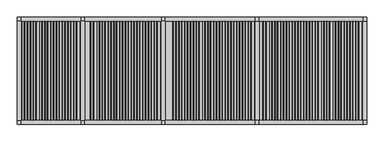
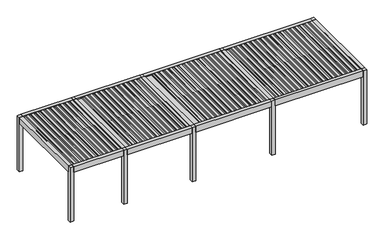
"""IFC4 building model written with IfcOpenShell, lengths in millimetres: proxy geometry, Renson_Camargue_Freestanding_Patio covers : Renson_Camargue_Freestanding_Patio covers."""

from ifc_helpers import new_model, si_unit, point, frame, frame_2d, origin, origin_with_axes, place, context, project, spatial, polyline, circle_curve, trimmed, segment, composite_curve, outline, extrude, source, transform, mapped, element, save


def generic_models_eab410b6(model_context):
    return source(origin(), model_context, "Body", "SweptSolid", [
        extrude(outline(composite_curve([segment(polyline([(2458.35, 11323.7338351), (2486.01198, 11326.1539448), (2487.3970364, 11354.9891952), (2506.8911096, 11351.5518641), (2501.6075693, 11241.5547493)]), True, "CONTINUOUS"), segment(trimmed(circle_curve(frame_2d((2486.6248435, 11242.2744212)), 15.0), [point((2501.6075693, 11241.5547493))], [point((2489.2295662, 11227.5023049))], False, "CARTESIAN"), True, "CONTINUOUS"), segment(polyline([(2489.2295662, 11227.5023049), (2470.0, 11224.1116136), (2470.0, 11136.3758376), (2487.0788237, 11133.3643801), (2486.3450182, 11118.0874097), (2458.35, 11115.6381629), (2458.35, 11323.7338351)]), True, "CONTINUOUS")], self_intersect=False)), frame((0.0, -1850.0, 0.0), z_axis=(0.0, 1.0, 0.0), x_axis=(0.0, 0.0, 1.0)), (0.0, 0.0, 1.0), 3700.0),
        extrude(outline(composite_curve([segment(polyline([(2458.35, 11108.7230303), (2486.01198, 11111.14314), (2487.3970364, 11139.9783904), (2506.8911096, 11136.5410594), (2501.6075693, 11026.5439445)]), True, "CONTINUOUS"), segment(trimmed(circle_curve(frame_2d((2486.6248435, 11027.2636164)), 15.0), [point((2501.6075693, 11026.5439445))], [point((2489.2295662, 11012.4915001))], False, "CARTESIAN"), True, "CONTINUOUS"), segment(polyline([(2489.2295662, 11012.4915001), (2470.0, 11009.1008088), (2470.0, 10921.3650328), (2487.0788237, 10918.3535754), (2486.3450182, 10903.0766049), (2458.35, 10900.6273582), (2458.35, 11108.7230303)]), True, "CONTINUOUS")], self_intersect=False)), frame((0.0, -1850.0, 0.0), z_axis=(0.0, 1.0, 0.0), x_axis=(0.0, 0.0, 1.0)), (0.0, 0.0, 1.0), 3700.0),
        extrude(outline(composite_curve([segment(polyline([(2458.35, 10893.7122255), (2486.01198, 10896.1323352), (2487.3970364, 10924.9675857), (2506.8911096, 10921.5302546), (2501.6075693, 10811.5331397)]), True, "CONTINUOUS"), segment(trimmed(circle_curve(frame_2d((2486.6248435, 10812.2528117)), 15.0), [point((2501.6075693, 10811.5331397))], [point((2489.2295662, 10797.4806954))], False, "CARTESIAN"), True, "CONTINUOUS"), segment(polyline([(2489.2295662, 10797.4806954), (2470.0, 10794.090004), (2470.0, 10706.354228), (2487.0788237, 10703.3427706), (2486.3450182, 10688.0658001), (2458.35, 10685.6165534), (2458.35, 10893.7122255)]), True, "CONTINUOUS")], self_intersect=False)), frame((0.0, -1850.0, 0.0), z_axis=(0.0, 1.0, 0.0), x_axis=(0.0, 0.0, 1.0)), (0.0, 0.0, 1.0), 3700.0),
        extrude(outline(composite_curve([segment(polyline([(2458.35, 10678.7014208), (2486.01198, 10681.1215304), (2487.3970364, 10709.9567809), (2506.8911096, 10706.5194498), (2501.6075693, 10596.5223349)]), True, "CONTINUOUS"), segment(trimmed(circle_curve(frame_2d((2486.6248435, 10597.2420069)), 15.0), [point((2501.6075693, 10596.5223349))], [point((2489.2295662, 10582.4698906))], False, "CARTESIAN"), True, "CONTINUOUS"), segment(polyline([(2489.2295662, 10582.4698906), (2470.0, 10579.0791992), (2470.0, 10491.3434232), (2487.0788237, 10488.3319658), (2486.3450182, 10473.0549953), (2458.35, 10470.6057486), (2458.35, 10678.7014208)]), True, "CONTINUOUS")], self_intersect=False)), frame((0.0, -1850.0, 0.0), z_axis=(0.0, 1.0, 0.0), x_axis=(0.0, 0.0, 1.0)), (0.0, 0.0, 1.0), 3700.0),
        extrude(outline(composite_curve([segment(polyline([(2458.35, 10463.690616), (2486.01198, 10466.1107256), (2487.3970364, 10494.9459761), (2506.8911096, 10491.508645), (2501.6075693, 10381.5115302)]), True, "CONTINUOUS"), segment(trimmed(circle_curve(frame_2d((2486.6248435, 10382.2312021)), 15.0), [point((2501.6075693, 10381.5115302))], [point((2489.2295662, 10367.4590858))], False, "CARTESIAN"), True, "CONTINUOUS"), segment(polyline([(2489.2295662, 10367.4590858), (2470.0, 10364.0683945), (2470.0, 10276.3326184), (2487.0788237, 10273.321161), (2486.3450182, 10258.0441905), (2458.35, 10255.5949438), (2458.35, 10463.690616)]), True, "CONTINUOUS")], self_intersect=False)), frame((0.0, -1850.0, 0.0), z_axis=(0.0, 1.0, 0.0), x_axis=(0.0, 0.0, 1.0)), (0.0, 0.0, 1.0), 3700.0),
        extrude(outline(composite_curve([segment(polyline([(2458.35, 10248.6798112), (2486.01198, 10251.0999209), (2487.3970364, 10279.9351713), (2506.8911096, 10276.4978402), (2501.6075693, 10166.5007254)]), True, "CONTINUOUS"), segment(trimmed(circle_curve(frame_2d((2486.6248435, 10167.2203973)), 15.0), [point((2501.6075693, 10166.5007254))], [point((2489.2295662, 10152.448281))], False, "CARTESIAN"), True, "CONTINUOUS"), segment(polyline([(2489.2295662, 10152.448281), (2470.0, 10149.0575897), (2470.0, 10061.3218136), (2487.0788237, 10058.3103562), (2486.3450182, 10043.0333858), (2458.35, 10040.584139), (2458.35, 10248.6798112)]), True, "CONTINUOUS")], self_intersect=False)), frame((0.0, -1850.0, 0.0), z_axis=(0.0, 1.0, 0.0), x_axis=(0.0, 0.0, 1.0)), (0.0, 0.0, 1.0), 3700.0),
        extrude(outline(composite_curve([segment(polyline([(2458.35, 10033.6690064), (2486.01198, 10036.0891161), (2487.3970364, 10064.9243665), (2506.8911096, 10061.4870355), (2501.6075693, 9951.4899206)]), True, "CONTINUOUS"), segment(trimmed(circle_curve(frame_2d((2486.6248435, 9952.2095925)), 15.0), [point((2501.6075693, 9951.4899206))], [point((2489.2295662, 9937.4374762))], False, "CARTESIAN"), True, "CONTINUOUS"), segment(polyline([(2489.2295662, 9937.4374762), (2470.0, 9934.0467849), (2470.0, 9846.3110089), (2487.0788237, 9843.2995515), (2486.3450182, 9828.022581), (2458.35, 9825.5733343), (2458.35, 10033.6690064)]), True, "CONTINUOUS")], self_intersect=False)), frame((0.0, -1850.0, 0.0), z_axis=(0.0, 1.0, 0.0), x_axis=(0.0, 0.0, 1.0)), (0.0, 0.0, 1.0), 3700.0),
        extrude(outline(composite_curve([segment(polyline([(2458.35, 9818.6582016), (2486.01198, 9821.0783113), (2487.3970364, 9849.9135617), (2506.8911096, 9846.4762307), (2501.6075693, 9736.4791158)]), True, "CONTINUOUS"), segment(trimmed(circle_curve(frame_2d((2486.6248435, 9737.1987878)), 15.0), [point((2501.6075693, 9736.4791158))], [point((2489.2295662, 9722.4266715))], False, "CARTESIAN"), True, "CONTINUOUS"), segment(polyline([(2489.2295662, 9722.4266715), (2470.0, 9719.0359801), (2470.0, 9631.3002041), (2487.0788237, 9628.2887467), (2486.3450182, 9613.0117762), (2458.35, 9610.5625295), (2458.35, 9818.6582016)]), True, "CONTINUOUS")], self_intersect=False)), frame((0.0, -1850.0, 0.0), z_axis=(0.0, 1.0, 0.0), x_axis=(0.0, 0.0, 1.0)), (0.0, 0.0, 1.0), 3700.0),
        extrude(outline(composite_curve([segment(polyline([(2458.35, 9603.6473968), (2486.01198, 9606.0675065), (2487.3970364, 9634.902757), (2506.8911096, 9631.4654259), (2501.6075693, 9521.468311)]), True, "CONTINUOUS"), segment(trimmed(circle_curve(frame_2d((2486.6248435, 9522.187983)), 15.0), [point((2501.6075693, 9521.468311))], [point((2489.2295662, 9507.4158667))], False, "CARTESIAN"), True, "CONTINUOUS"), segment(polyline([(2489.2295662, 9507.4158667), (2470.0, 9504.0251753), (2470.0, 9416.2893993), (2487.0788237, 9413.2779419), (2486.3450182, 9398.0009714), (2458.35, 9395.5517247), (2458.35, 9603.6473968)]), True, "CONTINUOUS")], self_intersect=False)), frame((0.0, -1850.0, 0.0), z_axis=(0.0, 1.0, 0.0), x_axis=(0.0, 0.0, 1.0)), (0.0, 0.0, 1.0), 3700.0),
        extrude(outline(composite_curve([segment(polyline([(2458.35, 9388.6365921), (2486.01198, 9391.0567017), (2487.3970364, 9419.8919522), (2506.8911096, 9416.4546211), (2501.6075693, 9306.4575063)]), True, "CONTINUOUS"), segment(trimmed(circle_curve(frame_2d((2486.6248435, 9307.1771782)), 15.0), [point((2501.6075693, 9306.4575063))], [point((2489.2295662, 9292.4050619))], False, "CARTESIAN"), True, "CONTINUOUS"), segment(polyline([(2489.2295662, 9292.4050619), (2470.0, 9289.0143706), (2470.0, 9201.2785945), (2487.0788237, 9198.2671371), (2486.3450182, 9182.9901666), (2458.35, 9180.5409199), (2458.35, 9388.6365921)]), True, "CONTINUOUS")], self_intersect=False)), frame((0.0, -1850.0, 0.0), z_axis=(0.0, 1.0, 0.0), x_axis=(0.0, 0.0, 1.0)), (0.0, 0.0, 1.0), 3700.0),
        extrude(outline(composite_curve([segment(polyline([(2458.35, 9173.6257873), (2486.01198, 9176.0458969), (2487.3970364, 9204.8811474), (2506.8911096, 9201.4438163), (2501.6075693, 9091.4467015)]), True, "CONTINUOUS"), segment(trimmed(circle_curve(frame_2d((2486.6248435, 9092.1663734)), 15.0), [point((2501.6075693, 9091.4467015))], [point((2489.2295662, 9077.3942571))], False, "CARTESIAN"), True, "CONTINUOUS"), segment(polyline([(2489.2295662, 9077.3942571), (2470.0, 9074.0035658), (2470.0, 8986.2677897), (2487.0788237, 8983.2563323), (2486.3450182, 8967.9793619), (2458.35, 8965.5301151), (2458.35, 9173.6257873)]), True, "CONTINUOUS")], self_intersect=False)), frame((0.0, -1850.0, 0.0), z_axis=(0.0, 1.0, 0.0), x_axis=(0.0, 0.0, 1.0)), (0.0, 0.0, 1.0), 3700.0),
        extrude(outline(composite_curve([segment(polyline([(2458.35, 8958.6149825), (2486.01198, 8961.0350922), (2487.3970364, 8989.8703426), (2506.8911096, 8986.4330115), (2501.6075693, 8876.4358967)]), True, "CONTINUOUS"), segment(trimmed(circle_curve(frame_2d((2486.6248435, 8877.1555686)), 15.0), [point((2501.6075693, 8876.4358967))], [point((2489.2295662, 8862.3834523))], False, "CARTESIAN"), True, "CONTINUOUS"), segment(polyline([(2489.2295662, 8862.3834523), (2470.0, 8858.992761), (2470.0, 8771.256985), (2487.0788237, 8768.2455275), (2486.3450182, 8752.9685571), (2458.35, 8750.5193103), (2458.35, 8958.6149825)]), True, "CONTINUOUS")], self_intersect=False)), frame((0.0, -1850.0, 0.0), z_axis=(0.0, 1.0, 0.0), x_axis=(0.0, 0.0, 1.0)), (0.0, 0.0, 1.0), 3700.0),
        extrude(outline(composite_curve([segment(polyline([(2458.35, 8743.6041777), (2486.01198, 8746.0242874), (2487.3970364, 8774.8595378), (2506.8911096, 8771.4222068), (2501.6075693, 8661.4250919)]), True, "CONTINUOUS"), segment(trimmed(circle_curve(frame_2d((2486.6248435, 8662.1447638)), 15.0), [point((2501.6075693, 8661.4250919))], [point((2489.2295662, 8647.3726475))], False, "CARTESIAN"), True, "CONTINUOUS"), segment(polyline([(2489.2295662, 8647.3726475), (2470.0, 8643.9819562), (2470.0, 8556.2461802), (2487.0788237, 8553.2347228), (2486.3450182, 8537.9577523), (2458.35, 8535.5085056), (2458.35, 8743.6041777)]), True, "CONTINUOUS")], self_intersect=False)), frame((0.0, -1850.0, 0.0), z_axis=(0.0, 1.0, 0.0), x_axis=(0.0, 0.0, 1.0)), (0.0, 0.0, 1.0), 3700.0),
        extrude(outline(composite_curve([segment(polyline([(2458.35, 8528.5933729), (2486.01198, 8531.0134826), (2487.3970364, 8559.8487331), (2506.8911096, 8556.411402), (2501.6075693, 8446.4142871)]), True, "CONTINUOUS"), segment(trimmed(circle_curve(frame_2d((2486.6248435, 8447.1339591)), 15.0), [point((2501.6075693, 8446.4142871))], [point((2489.2295662, 8432.3618428))], False, "CARTESIAN"), True, "CONTINUOUS"), segment(polyline([(2489.2295662, 8432.3618428), (2470.0, 8428.9711514), (2470.0, 8341.2353754), (2487.0788237, 8338.223918), (2486.3450182, 8322.9469475), (2458.35, 8320.4977008), (2458.35, 8528.5933729)]), True, "CONTINUOUS")], self_intersect=False)), frame((0.0, -1850.0, 0.0), z_axis=(0.0, 1.0, 0.0), x_axis=(0.0, 0.0, 1.0)), (0.0, 0.0, 1.0), 3700.0),
        extrude(outline(composite_curve([segment(polyline([(2458.35, 8313.5825682), (2486.01198, 8316.0026778), (2487.3970364, 8344.8379283), (2506.8911096, 8341.4005972), (2501.6075693, 8231.4034824)]), True, "CONTINUOUS"), segment(trimmed(circle_curve(frame_2d((2486.6248435, 8232.1231543)), 15.0), [point((2501.6075693, 8231.4034824))], [point((2489.2295662, 8217.351038))], False, "CARTESIAN"), True, "CONTINUOUS"), segment(polyline([(2489.2295662, 8217.351038), (2470.0, 8213.9603466), (2470.0, 8126.2245706), (2487.0788237, 8123.2131132), (2486.3450182, 8107.9361427), (2458.35, 8105.486896), (2458.35, 8313.5825682)]), True, "CONTINUOUS")], self_intersect=False)), frame((0.0, -1850.0, 0.0), z_axis=(0.0, 1.0, 0.0), x_axis=(0.0, 0.0, 1.0)), (0.0, 0.0, 1.0), 3700.0),
        extrude(outline(composite_curve([segment(polyline([(2458.35, 11538.7446399), (2486.01198, 11541.1647495), (2487.3970364, 11570.0), (2506.8911096, 11566.5626689), (2501.6075693, 11456.5655541)]), True, "CONTINUOUS"), segment(trimmed(circle_curve(frame_2d((2486.6248435, 11457.285226)), 15.0), [point((2501.6075693, 11456.5655541))], [point((2489.2295662, 11442.5131097))], False, "CARTESIAN"), True, "CONTINUOUS"), segment(polyline([(2489.2295662, 11442.5131097), (2470.0, 11439.1224184), (2470.0, 11351.3866423), (2487.0788237, 11348.3751849), (2486.3450182, 11333.0982144), (2458.35, 11330.6489677), (2458.35, 11538.7446399)]), True, "CONTINUOUS")], self_intersect=False)), frame((0.0, -1850.0, 0.0), z_axis=(0.0, 1.0, 0.0), x_axis=(0.0, 0.0, 1.0)), (0.0, 0.0, 1.0), 3700.0),
        extrude(outline(composite_curve([segment(polyline([(2458.35, 8098.5717634), (2486.01198, 8100.991873), (2487.3970364, 8129.8271235), (2506.8911096, 8126.3897924), (2501.6075693, 8016.3926776)]), True, "CONTINUOUS"), segment(trimmed(circle_curve(frame_2d((2486.6248435, 8017.1123495)), 15.0), [point((2501.6075693, 8016.3926776))], [point((2489.2295662, 8002.3402332))], False, "CARTESIAN"), True, "CONTINUOUS"), segment(polyline([(2489.2295662, 8002.3402332), (2470.0, 7998.9495419), (2470.0, 7911.2137658), (2487.0788237, 7908.2023084), (2486.3450182, 7892.9253379), (2458.35, 7890.4760912), (2458.35, 8098.5717634)]), True, "CONTINUOUS")], self_intersect=False)), frame((0.0, -1850.0, 0.0), z_axis=(0.0, 1.0, 0.0), x_axis=(0.0, 0.0, 1.0)), (0.0, 0.0, 1.0), 3700.0),
        extrude(outline(composite_curve([segment(polyline([(2458.35, 7323.7313417), (2486.01198, 7326.1514513), (2487.3970364, 7354.9867018), (2506.8911096, 7351.5493707), (2501.6075693, 7241.5522559)]), True, "CONTINUOUS"), segment(trimmed(circle_curve(frame_2d((2486.6248435, 7242.2719278)), 15.0), [point((2501.6075693, 7241.5522559))], [point((2489.2295662, 7227.4998115))], False, "CARTESIAN"), True, "CONTINUOUS"), segment(polyline([(2489.2295662, 7227.4998115), (2470.0, 7224.1091202), (2470.0, 7136.3733441), (2487.0788237, 7133.3618867), (2486.3450182, 7118.0849163), (2458.35, 7115.6356695), (2458.35, 7323.7313417)]), True, "CONTINUOUS")], self_intersect=False)), frame((0.0, -1850.0, 0.0), z_axis=(0.0, 1.0, 0.0), x_axis=(0.0, 0.0, 1.0)), (0.0, 0.0, 1.0), 3700.0),
        extrude(outline(composite_curve([segment(polyline([(2458.35, 7108.7180435), (2486.01198, 7111.1381532), (2487.3970364, 7139.9734036), (2506.8911096, 7136.5360725), (2501.6075693, 7026.5389577)]), True, "CONTINUOUS"), segment(trimmed(circle_curve(frame_2d((2486.6248435, 7027.2586296)), 15.0), [point((2501.6075693, 7026.5389577))], [point((2489.2295662, 7012.4865133))], False, "CARTESIAN"), True, "CONTINUOUS"), segment(polyline([(2489.2295662, 7012.4865133), (2470.0, 7009.095822), (2470.0, 6921.360046), (2487.0788237, 6918.3485885), (2486.3450182, 6903.0716181), (2458.35, 6900.6223713), (2458.35, 7108.7180435)]), True, "CONTINUOUS")], self_intersect=False)), frame((0.0, -1850.0, 0.0), z_axis=(0.0, 1.0, 0.0), x_axis=(0.0, 0.0, 1.0)), (0.0, 0.0, 1.0), 3700.0),
        extrude(outline(composite_curve([segment(polyline([(2458.35, 6893.7047453), (2486.01198, 6896.124855), (2487.3970364, 6924.9601054), (2506.8911096, 6921.5227743), (2501.6075693, 6811.5256595)]), True, "CONTINUOUS"), segment(trimmed(circle_curve(frame_2d((2486.6248435, 6812.2453314)), 15.0), [point((2501.6075693, 6811.5256595))], [point((2489.2295662, 6797.4732151))], False, "CARTESIAN"), True, "CONTINUOUS"), segment(polyline([(2489.2295662, 6797.4732151), (2470.0, 6794.0825238), (2470.0, 6706.3467478), (2487.0788237, 6703.3352903), (2486.3450182, 6688.0583199), (2458.35, 6685.6090731), (2458.35, 6893.7047453)]), True, "CONTINUOUS")], self_intersect=False)), frame((0.0, -1850.0, 0.0), z_axis=(0.0, 1.0, 0.0), x_axis=(0.0, 0.0, 1.0)), (0.0, 0.0, 1.0), 3700.0),
        extrude(outline(composite_curve([segment(polyline([(2458.35, 6678.6914471), (2486.01198, 6681.1115568), (2487.3970364, 6709.9468072), (2506.8911096, 6706.5094762), (2501.6075693, 6596.5123613)]), True, "CONTINUOUS"), segment(trimmed(circle_curve(frame_2d((2486.6248435, 6597.2320332)), 15.0), [point((2501.6075693, 6596.5123613))], [point((2489.2295662, 6582.4599169))], False, "CARTESIAN"), True, "CONTINUOUS"), segment(polyline([(2489.2295662, 6582.4599169), (2470.0, 6579.0692256), (2470.0, 6491.3334496), (2487.0788237, 6488.3219922), (2486.3450182, 6473.0450217), (2458.35, 6470.595775), (2458.35, 6678.6914471)]), True, "CONTINUOUS")], self_intersect=False)), frame((0.0, -1850.0, 0.0), z_axis=(0.0, 1.0, 0.0), x_axis=(0.0, 0.0, 1.0)), (0.0, 0.0, 1.0), 3700.0),
        extrude(outline(composite_curve([segment(polyline([(2458.35, 6463.6781489), (2486.01198, 6466.0982586), (2487.3970364, 6494.933509), (2506.8911096, 6491.496178), (2501.6075693, 6381.4990631)]), True, "CONTINUOUS"), segment(trimmed(circle_curve(frame_2d((2486.6248435, 6382.218735)), 15.0), [point((2501.6075693, 6381.4990631))], [point((2489.2295662, 6367.4466187))], False, "CARTESIAN"), True, "CONTINUOUS"), segment(polyline([(2489.2295662, 6367.4466187), (2470.0, 6364.0559274), (2470.0, 6276.3201514), (2487.0788237, 6273.308694), (2486.3450182, 6258.0317235), (2458.35, 6255.5824768), (2458.35, 6463.6781489)]), True, "CONTINUOUS")], self_intersect=False)), frame((0.0, -1850.0, 0.0), z_axis=(0.0, 1.0, 0.0), x_axis=(0.0, 0.0, 1.0)), (0.0, 0.0, 1.0), 3700.0),
        extrude(outline(composite_curve([segment(polyline([(2458.35, 6248.6648507), (2486.01198, 6251.0849604), (2487.3970364, 6279.9202108), (2506.8911096, 6276.4828798), (2501.6075693, 6166.4857649)]), True, "CONTINUOUS"), segment(trimmed(circle_curve(frame_2d((2486.6248435, 6167.2054368)), 15.0), [point((2501.6075693, 6166.4857649))], [point((2489.2295662, 6152.4333206))], False, "CARTESIAN"), True, "CONTINUOUS"), segment(polyline([(2489.2295662, 6152.4333206), (2470.0, 6149.0426292), (2470.0, 6061.3068532), (2487.0788237, 6058.2953958), (2486.3450182, 6043.0184253), (2458.35, 6040.5691786), (2458.35, 6248.6648507)]), True, "CONTINUOUS")], self_intersect=False)), frame((0.0, -1850.0, 0.0), z_axis=(0.0, 1.0, 0.0), x_axis=(0.0, 0.0, 1.0)), (0.0, 0.0, 1.0), 3700.0),
        extrude(outline(composite_curve([segment(polyline([(2458.35, 6033.6515525), (2486.01198, 6036.0716622), (2487.3970364, 6064.9069127), (2506.8911096, 6061.4695816), (2501.6075693, 5951.4724667)]), True, "CONTINUOUS"), segment(trimmed(circle_curve(frame_2d((2486.6248435, 5952.1921387)), 15.0), [point((2501.6075693, 5951.4724667))], [point((2489.2295662, 5937.4200224))], False, "CARTESIAN"), True, "CONTINUOUS"), segment(polyline([(2489.2295662, 5937.4200224), (2470.0, 5934.029331), (2470.0, 5846.293555), (2487.0788237, 5843.2820976), (2486.3450182, 5828.0051271), (2458.35, 5825.5558804), (2458.35, 6033.6515525)]), True, "CONTINUOUS")], self_intersect=False)), frame((0.0, -1850.0, 0.0), z_axis=(0.0, 1.0, 0.0), x_axis=(0.0, 0.0, 1.0)), (0.0, 0.0, 1.0), 3700.0),
        extrude(outline(composite_curve([segment(polyline([(2458.35, 5818.6382543), (2486.01198, 5821.058364), (2487.3970364, 5849.8936145), (2506.8911096, 5846.4562834), (2501.6075693, 5736.4591685)]), True, "CONTINUOUS"), segment(trimmed(circle_curve(frame_2d((2486.6248435, 5737.1788405)), 15.0), [point((2501.6075693, 5736.4591685))], [point((2489.2295662, 5722.4067242))], False, "CARTESIAN"), True, "CONTINUOUS"), segment(polyline([(2489.2295662, 5722.4067242), (2470.0, 5719.0160328), (2470.0, 5631.2802568), (2487.0788237, 5628.2687994), (2486.3450182, 5612.9918289), (2458.35, 5610.5425822), (2458.35, 5818.6382543)]), True, "CONTINUOUS")], self_intersect=False)), frame((0.0, -1850.0, 0.0), z_axis=(0.0, 1.0, 0.0), x_axis=(0.0, 0.0, 1.0)), (0.0, 0.0, 1.0), 3700.0),
        extrude(outline(composite_curve([segment(polyline([(2458.35, 5603.6249561), (2486.01198, 5606.0450658), (2487.3970364, 5634.8803163), (2506.8911096, 5631.4429852), (2501.6075693, 5521.4458703)]), True, "CONTINUOUS"), segment(trimmed(circle_curve(frame_2d((2486.6248435, 5522.1655423)), 15.0), [point((2501.6075693, 5521.4458703))], [point((2489.2295662, 5507.393426))], False, "CARTESIAN"), True, "CONTINUOUS"), segment(polyline([(2489.2295662, 5507.393426), (2470.0, 5504.0027346), (2470.0, 5416.2669586), (2487.0788237, 5413.2555012), (2486.3450182, 5397.9785307), (2458.35, 5395.529284), (2458.35, 5603.6249561)]), True, "CONTINUOUS")], self_intersect=False)), frame((0.0, -1850.0, 0.0), z_axis=(0.0, 1.0, 0.0), x_axis=(0.0, 0.0, 1.0)), (0.0, 0.0, 1.0), 3700.0),
        extrude(outline(composite_curve([segment(polyline([(2458.35, 5388.611658), (2486.01198, 5391.0317676), (2487.3970364, 5419.8670181), (2506.8911096, 5416.429687), (2501.6075693, 5306.4325721)]), True, "CONTINUOUS"), segment(trimmed(circle_curve(frame_2d((2486.6248435, 5307.1522441)), 15.0), [point((2501.6075693, 5306.4325721))], [point((2489.2295662, 5292.3801278))], False, "CARTESIAN"), True, "CONTINUOUS"), segment(polyline([(2489.2295662, 5292.3801278), (2470.0, 5288.9894364), (2470.0, 5201.2536604), (2487.0788237, 5198.242203), (2486.3450182, 5182.9652325), (2458.35, 5180.5159858), (2458.35, 5388.611658)]), True, "CONTINUOUS")], self_intersect=False)), frame((0.0, -1850.0, 0.0), z_axis=(0.0, 1.0, 0.0), x_axis=(0.0, 0.0, 1.0)), (0.0, 0.0, 1.0), 3700.0),
        extrude(outline(composite_curve([segment(polyline([(2458.35, 5173.5983598), (2486.01198, 5176.0184694), (2487.3970364, 5204.8537199), (2506.8911096, 5201.4163888), (2501.6075693, 5091.419274)]), True, "CONTINUOUS"), segment(trimmed(circle_curve(frame_2d((2486.6248435, 5092.1389459)), 15.0), [point((2501.6075693, 5091.419274))], [point((2489.2295662, 5077.3668296))], False, "CARTESIAN"), True, "CONTINUOUS"), segment(polyline([(2489.2295662, 5077.3668296), (2470.0, 5073.9761382), (2470.0, 4986.2403622), (2487.0788237, 4983.2289048), (2486.3450182, 4967.9519343), (2458.35, 4965.5026876), (2458.35, 5173.5983598)]), True, "CONTINUOUS")], self_intersect=False)), frame((0.0, -1850.0, 0.0), z_axis=(0.0, 1.0, 0.0), x_axis=(0.0, 0.0, 1.0)), (0.0, 0.0, 1.0), 3700.0),
        extrude(outline(composite_curve([segment(polyline([(2458.35, 4958.5850616), (2486.01198, 4961.0051712), (2487.3970364, 4989.8404217), (2506.8911096, 4986.4030906), (2501.6075693, 4876.4059758)]), True, "CONTINUOUS"), segment(trimmed(circle_curve(frame_2d((2486.6248435, 4877.1256477)), 15.0), [point((2501.6075693, 4876.4059758))], [point((2489.2295662, 4862.3535314))], False, "CARTESIAN"), True, "CONTINUOUS"), segment(polyline([(2489.2295662, 4862.3535314), (2470.0, 4858.9628401), (2470.0, 4771.227064), (2487.0788237, 4768.2156066), (2486.3450182, 4752.9386361), (2458.35, 4750.4893894), (2458.35, 4958.5850616)]), True, "CONTINUOUS")], self_intersect=False)), frame((0.0, -1850.0, 0.0), z_axis=(0.0, 1.0, 0.0), x_axis=(0.0, 0.0, 1.0)), (0.0, 0.0, 1.0), 3700.0),
        extrude(outline(composite_curve([segment(polyline([(2458.35, 7538.7446399), (2486.01198, 7541.1647495), (2487.3970364, 7570.0), (2506.8911096, 7566.5626689), (2501.6075693, 7456.5655541)]), True, "CONTINUOUS"), segment(trimmed(circle_curve(frame_2d((2486.6248435, 7457.285226)), 15.0), [point((2501.6075693, 7456.5655541))], [point((2489.2295662, 7442.5131097))], False, "CARTESIAN"), True, "CONTINUOUS"), segment(polyline([(2489.2295662, 7442.5131097), (2470.0, 7439.1224184), (2470.0, 7351.3866423), (2487.0788237, 7348.3751849), (2486.3450182, 7333.0982144), (2458.35, 7330.6489677), (2458.35, 7538.7446399)]), True, "CONTINUOUS")], self_intersect=False)), frame((0.0, -1850.0, 0.0), z_axis=(0.0, 1.0, 0.0), x_axis=(0.0, 0.0, 1.0)), (0.0, 0.0, 1.0), 3700.0),
        extrude(outline(composite_curve([segment(polyline([(2458.35, 4743.5717634), (2486.01198, 4745.991873), (2487.3970364, 4774.8271235), (2506.8911096, 4771.3897924), (2501.6075693, 4661.3926776)]), True, "CONTINUOUS"), segment(trimmed(circle_curve(frame_2d((2486.6248435, 4662.1123495)), 15.0), [point((2501.6075693, 4661.3926776))], [point((2489.2295662, 4647.3402332))], False, "CARTESIAN"), True, "CONTINUOUS"), segment(polyline([(2489.2295662, 4647.3402332), (2470.0, 4643.9495419), (2470.0, 4556.2137658), (2487.0788237, 4553.2023084), (2486.3450182, 4537.9253379), (2458.35, 4535.4760912), (2458.35, 4743.5717634)]), True, "CONTINUOUS")], self_intersect=False)), frame((0.0, -1850.0, 0.0), z_axis=(0.0, 1.0, 0.0), x_axis=(0.0, 0.0, 1.0)), (0.0, 0.0, 1.0), 3700.0),
        extrude(outline(composite_curve([segment(polyline([(2458.35, 3823.7289238), (2486.01198, 3826.1490335), (2487.3970364, 3854.984284), (2506.8911096, 3851.5469529), (2501.6075693, 3741.549838)]), True, "CONTINUOUS"), segment(trimmed(circle_curve(frame_2d((2486.6248435, 3742.26951)), 15.0), [point((2501.6075693, 3741.549838))], [point((2489.2295662, 3727.4973937))], False, "CARTESIAN"), True, "CONTINUOUS"), segment(polyline([(2489.2295662, 3727.4973937), (2470.0, 3724.1067023), (2470.0, 3636.3709263), (2487.0788237, 3633.3594689), (2486.3450182, 3618.0824984), (2458.35, 3615.6332517), (2458.35, 3823.7289238)]), True, "CONTINUOUS")], self_intersect=False)), frame((0.0, -1850.0, 0.0), z_axis=(0.0, 1.0, 0.0), x_axis=(0.0, 0.0, 1.0)), (0.0, 0.0, 1.0), 3700.0),
        extrude(outline(composite_curve([segment(polyline([(2458.35, 3608.7132078), (2486.01198, 3611.1333174), (2487.3970364, 3639.9685679), (2506.8911096, 3636.5312368), (2501.6075693, 3526.534122)]), True, "CONTINUOUS"), segment(trimmed(circle_curve(frame_2d((2486.6248435, 3527.2537939)), 15.0), [point((2501.6075693, 3526.534122))], [point((2489.2295662, 3512.4816776))], False, "CARTESIAN"), True, "CONTINUOUS"), segment(polyline([(2489.2295662, 3512.4816776), (2470.0, 3509.0909863), (2470.0, 3421.3552102), (2487.0788237, 3418.3437528), (2486.3450182, 3403.0667824), (2458.35, 3400.6175356), (2458.35, 3608.7132078)]), True, "CONTINUOUS")], self_intersect=False)), frame((0.0, -1850.0, 0.0), z_axis=(0.0, 1.0, 0.0), x_axis=(0.0, 0.0, 1.0)), (0.0, 0.0, 1.0), 3700.0),
        extrude(outline(composite_curve([segment(polyline([(2458.35, 3393.6974917), (2486.01198, 3396.1176014), (2487.3970364, 3424.9528519), (2506.8911096, 3421.5155208), (2501.6075693, 3311.5184059)]), True, "CONTINUOUS"), segment(trimmed(circle_curve(frame_2d((2486.6248435, 3312.2380779)), 15.0), [point((2501.6075693, 3311.5184059))], [point((2489.2295662, 3297.4659616))], False, "CARTESIAN"), True, "CONTINUOUS"), segment(polyline([(2489.2295662, 3297.4659616), (2470.0, 3294.0752702), (2470.0, 3206.3394942), (2487.0788237, 3203.3280368), (2486.3450182, 3188.0510663), (2458.35, 3185.6018196), (2458.35, 3393.6974917)]), True, "CONTINUOUS")], self_intersect=False)), frame((0.0, -1850.0, 0.0), z_axis=(0.0, 1.0, 0.0), x_axis=(0.0, 0.0, 1.0)), (0.0, 0.0, 1.0), 3700.0),
        extrude(outline(composite_curve([segment(polyline([(2458.35, 3178.6817757), (2486.01198, 3181.1018854), (2487.3970364, 3209.9371358), (2506.8911096, 3206.4998047), (2501.6075693, 3096.5026899)]), True, "CONTINUOUS"), segment(trimmed(circle_curve(frame_2d((2486.6248435, 3097.2223618)), 15.0), [point((2501.6075693, 3096.5026899))], [point((2489.2295662, 3082.4502455))], False, "CARTESIAN"), True, "CONTINUOUS"), segment(polyline([(2489.2295662, 3082.4502455), (2470.0, 3079.0595542), (2470.0, 2991.3237782), (2487.0788237, 2988.3123207), (2486.3450182, 2973.0353503), (2458.35, 2970.5861035), (2458.35, 3178.6817757)]), True, "CONTINUOUS")], self_intersect=False)), frame((0.0, -1850.0, 0.0), z_axis=(0.0, 1.0, 0.0), x_axis=(0.0, 0.0, 1.0)), (0.0, 0.0, 1.0), 3700.0),
        extrude(outline(composite_curve([segment(polyline([(2458.35, 2963.6660597), (2486.01198, 2966.0861693), (2487.3970364, 2994.9214198), (2506.8911096, 2991.4840887), (2501.6075693, 2881.4869738)]), True, "CONTINUOUS"), segment(trimmed(circle_curve(frame_2d((2486.6248435, 2882.2066458)), 15.0), [point((2501.6075693, 2881.4869738))], [point((2489.2295662, 2867.4345295))], False, "CARTESIAN"), True, "CONTINUOUS"), segment(polyline([(2489.2295662, 2867.4345295), (2470.0, 2864.0438381), (2470.0, 2776.3080621), (2487.0788237, 2773.2966047), (2486.3450182, 2758.0196342), (2458.35, 2755.5703875), (2458.35, 2963.6660597)]), True, "CONTINUOUS")], self_intersect=False)), frame((0.0, -1850.0, 0.0), z_axis=(0.0, 1.0, 0.0), x_axis=(0.0, 0.0, 1.0)), (0.0, 0.0, 1.0), 3700.0),
        extrude(outline(composite_curve([segment(polyline([(2458.35, 2748.6503436), (2486.01198, 2751.0704533), (2487.3970364, 2779.9057037), (2506.8911096, 2776.4683726), (2501.6075693, 2666.4712578)]), True, "CONTINUOUS"), segment(trimmed(circle_curve(frame_2d((2486.6248435, 2667.1909297)), 15.0), [point((2501.6075693, 2666.4712578))], [point((2489.2295662, 2652.4188134))], False, "CARTESIAN"), True, "CONTINUOUS"), segment(polyline([(2489.2295662, 2652.4188134), (2470.0, 2649.0281221), (2470.0, 2561.2923461), (2487.0788237, 2558.2808886), (2486.3450182, 2543.0039182), (2458.35, 2540.5546714), (2458.35, 2748.6503436)]), True, "CONTINUOUS")], self_intersect=False)), frame((0.0, -1850.0, 0.0), z_axis=(0.0, 1.0, 0.0), x_axis=(0.0, 0.0, 1.0)), (0.0, 0.0, 1.0), 3700.0),
        extrude(outline(composite_curve([segment(polyline([(2458.35, 2533.6346276), (2486.01198, 2536.0547372), (2487.3970364, 2564.8899877), (2506.8911096, 2561.4526566), (2501.6075693, 2451.4555418)]), True, "CONTINUOUS"), segment(trimmed(circle_curve(frame_2d((2486.6248435, 2452.1752137)), 15.0), [point((2501.6075693, 2451.4555418))], [point((2489.2295662, 2437.4030974))], False, "CARTESIAN"), True, "CONTINUOUS"), segment(polyline([(2489.2295662, 2437.4030974), (2470.0, 2434.012406), (2470.0, 2346.27663), (2487.0788237, 2343.2651726), (2486.3450182, 2327.9882021), (2458.35, 2325.5389554), (2458.35, 2533.6346276)]), True, "CONTINUOUS")], self_intersect=False)), frame((0.0, -1850.0, 0.0), z_axis=(0.0, 1.0, 0.0), x_axis=(0.0, 0.0, 1.0)), (0.0, 0.0, 1.0), 3700.0),
        extrude(outline(composite_curve([segment(polyline([(2458.35, 2318.6189115), (2486.01198, 2321.0390212), (2487.3970364, 2349.8742716), (2506.8911096, 2346.4369406), (2501.6075693, 2236.4398257)]), True, "CONTINUOUS"), segment(trimmed(circle_curve(frame_2d((2486.6248435, 2237.1594976)), 15.0), [point((2501.6075693, 2236.4398257))], [point((2489.2295662, 2222.3873813))], False, "CARTESIAN"), True, "CONTINUOUS"), segment(polyline([(2489.2295662, 2222.3873813), (2470.0, 2218.99669), (2470.0, 2131.260914), (2487.0788237, 2128.2494566), (2486.3450182, 2112.9724861), (2458.35, 2110.5232394), (2458.35, 2318.6189115)]), True, "CONTINUOUS")], self_intersect=False)), frame((0.0, -1850.0, 0.0), z_axis=(0.0, 1.0, 0.0), x_axis=(0.0, 0.0, 1.0)), (0.0, 0.0, 1.0), 3700.0),
        extrude(outline(composite_curve([segment(polyline([(2458.35, 2103.6031955), (2486.01198, 2106.0233051), (2487.3970364, 2134.8585556), (2506.8911096, 2131.4212245), (2501.6075693, 2021.4241097)]), True, "CONTINUOUS"), segment(trimmed(circle_curve(frame_2d((2486.6248435, 2022.1437816)), 15.0), [point((2501.6075693, 2021.4241097))], [point((2489.2295662, 2007.3716653))], False, "CARTESIAN"), True, "CONTINUOUS"), segment(polyline([(2489.2295662, 2007.3716653), (2470.0, 2003.980974), (2470.0, 1916.2451979), (2487.0788237, 1913.2337405), (2486.3450182, 1897.95677), (2458.35, 1895.5075233), (2458.35, 2103.6031955)]), True, "CONTINUOUS")], self_intersect=False)), frame((0.0, -1850.0, 0.0), z_axis=(0.0, 1.0, 0.0), x_axis=(0.0, 0.0, 1.0)), (0.0, 0.0, 1.0), 3700.0),
        extrude(outline(composite_curve([segment(polyline([(2458.35, 1888.5874794), (2486.01198, 1891.0075891), (2487.3970364, 1919.8428395), (2506.8911096, 1916.4055085), (2501.6075693, 1806.4083936)]), True, "CONTINUOUS"), segment(trimmed(circle_curve(frame_2d((2486.6248435, 1807.1280655)), 15.0), [point((2501.6075693, 1806.4083936))], [point((2489.2295662, 1792.3559492))], False, "CARTESIAN"), True, "CONTINUOUS"), segment(polyline([(2489.2295662, 1792.3559492), (2470.0, 1788.9652579), (2470.0, 1701.2294819), (2487.0788237, 1698.2180245), (2486.3450182, 1682.941054), (2458.35, 1680.4918073), (2458.35, 1888.5874794)]), True, "CONTINUOUS")], self_intersect=False)), frame((0.0, -1850.0, 0.0), z_axis=(0.0, 1.0, 0.0), x_axis=(0.0, 0.0, 1.0)), (0.0, 0.0, 1.0), 3700.0),
        extrude(outline(composite_curve([segment(polyline([(2458.35, 4038.7446399), (2486.01198, 4041.1647495), (2487.3970364, 4070.0), (2506.8911096, 4066.5626689), (2501.6075693, 3956.5655541)]), True, "CONTINUOUS"), segment(trimmed(circle_curve(frame_2d((2486.6248435, 3957.285226)), 15.0), [point((2501.6075693, 3956.5655541))], [point((2489.2295662, 3942.5131097))], False, "CARTESIAN"), True, "CONTINUOUS"), segment(polyline([(2489.2295662, 3942.5131097), (2470.0, 3939.1224184), (2470.0, 3851.3866423), (2487.0788237, 3848.3751849), (2486.3450182, 3833.0982144), (2458.35, 3830.6489677), (2458.35, 4038.7446399)]), True, "CONTINUOUS")], self_intersect=False)), frame((0.0, -1850.0, 0.0), z_axis=(0.0, 1.0, 0.0), x_axis=(0.0, 0.0, 1.0)), (0.0, 0.0, 1.0), 3700.0),
        extrude(outline(composite_curve([segment(polyline([(2458.35, 1673.5717634), (2486.01198, 1675.991873), (2487.3970364, 1704.8271235), (2506.8911096, 1701.3897924), (2501.6075693, 1591.3926776)]), True, "CONTINUOUS"), segment(trimmed(circle_curve(frame_2d((2486.6248435, 1592.1123495)), 15.0), [point((2501.6075693, 1591.3926776))], [point((2489.2295662, 1577.3402332))], False, "CARTESIAN"), True, "CONTINUOUS"), segment(polyline([(2489.2295662, 1577.3402332), (2470.0, 1573.9495419), (2470.0, 1486.2137658), (2487.0788237, 1483.2023084), (2486.3450182, 1467.9253379), (2458.35, 1465.4760912), (2458.35, 1673.5717634)]), True, "CONTINUOUS")], self_intersect=False)), frame((0.0, -1850.0, 0.0), z_axis=(0.0, 1.0, 0.0), x_axis=(0.0, 0.0, 1.0)), (0.0, 0.0, 1.0), 3700.0),
        extrude(outline(composite_curve([segment(polyline([(2458.35, 823.7254314), (2486.01198, 826.145541), (2487.3970364, 854.9807915), (2506.8911096, 851.5434604), (2501.6075693, 741.5463456)]), True, "CONTINUOUS"), segment(trimmed(circle_curve(frame_2d((2486.6248435, 742.2660175)), 15.0), [point((2501.6075693, 741.5463456))], [point((2489.2295662, 727.4939012))], False, "CARTESIAN"), True, "CONTINUOUS"), segment(polyline([(2489.2295662, 727.4939012), (2470.0, 724.1032099), (2470.0, 636.3674338), (2487.0788237, 633.3559764), (2486.3450182, 618.0790059), (2458.35, 615.6297592), (2458.35, 823.7254314)]), True, "CONTINUOUS")], self_intersect=False)), frame((0.0, -1850.0, 0.0), z_axis=(0.0, 1.0, 0.0), x_axis=(0.0, 0.0, 1.0)), (0.0, 0.0, 1.0), 3700.0),
        extrude(outline(composite_curve([segment(polyline([(2458.35, 608.7062229), (2486.01198, 611.1263325), (2487.3970364, 639.961583), (2506.8911096, 636.5242519), (2501.6075693, 526.5271371)]), True, "CONTINUOUS"), segment(trimmed(circle_curve(frame_2d((2486.6248435, 527.246809)), 15.0), [point((2501.6075693, 526.5271371))], [point((2489.2295662, 512.4746927))], False, "CARTESIAN"), True, "CONTINUOUS"), segment(polyline([(2489.2295662, 512.4746927), (2470.0, 509.0840014), (2470.0, 421.3482253), (2487.0788237, 418.3367679), (2486.3450182, 403.0597974), (2458.35, 400.6105507), (2458.35, 608.7062229)]), True, "CONTINUOUS")], self_intersect=False)), frame((0.0, -1850.0, 0.0), z_axis=(0.0, 1.0, 0.0), x_axis=(0.0, 0.0, 1.0)), (0.0, 0.0, 1.0), 3700.0),
        extrude(outline(composite_curve([segment(polyline([(2458.35, 393.6870144), (2486.01198, 396.107124), (2487.3970364, 424.9423745), (2506.8911096, 421.5050434), (2501.6075693, 311.5079286)]), True, "CONTINUOUS"), segment(trimmed(circle_curve(frame_2d((2486.6248435, 312.2276005)), 15.0), [point((2501.6075693, 311.5079286))], [point((2489.2295662, 297.4554842))], False, "CARTESIAN"), True, "CONTINUOUS"), segment(polyline([(2489.2295662, 297.4554842), (2470.0, 294.0647929), (2470.0, 206.3290168), (2487.0788237, 203.3175594), (2486.3450182, 188.0405889), (2458.35, 185.5913422), (2458.35, 393.6870144)]), True, "CONTINUOUS")], self_intersect=False)), frame((0.0, -1850.0, 0.0), z_axis=(0.0, 1.0, 0.0), x_axis=(0.0, 0.0, 1.0)), (0.0, 0.0, 1.0), 3700.0),
        extrude(outline(composite_curve([segment(polyline([(2458.35, 178.6678059), (2486.01198, 181.0879155), (2487.3970364, 209.923166), (2506.8911096, 206.4858349), (2501.6075693, 96.4887201)]), True, "CONTINUOUS"), segment(trimmed(circle_curve(frame_2d((2486.6248435, 97.208392)), 15.0), [point((2501.6075693, 96.4887201))], [point((2489.2295662, 82.4362757))], False, "CARTESIAN"), True, "CONTINUOUS"), segment(polyline([(2489.2295662, 82.4362757), (2470.0, 79.0455844), (2470.0, -8.6901917), (2487.0788237, -11.7016491), (2486.3450182, -26.9786196), (2458.35, -29.4278663), (2458.35, 178.6678059)]), True, "CONTINUOUS")], self_intersect=False)), frame((0.0, -1850.0, 0.0), z_axis=(0.0, 1.0, 0.0), x_axis=(0.0, 0.0, 1.0)), (0.0, 0.0, 1.0), 3700.0),
        extrude(outline(composite_curve([segment(polyline([(2458.35, -36.3514026), (2486.01198, -33.931293), (2487.3970364, -5.0960425), (2506.8911096, -8.5333736), (2501.6075693, -118.5304884)]), True, "CONTINUOUS"), segment(trimmed(circle_curve(frame_2d((2486.6248435, -117.8108165)), 15.0), [point((2501.6075693, -118.5304884))], [point((2489.2295662, -132.5829328))], False, "CARTESIAN"), True, "CONTINUOUS"), segment(polyline([(2489.2295662, -132.5829328), (2470.0, -135.9736241), (2470.0, -223.7094002), (2487.0788237, -226.7208576), (2486.3450182, -241.9978281), (2458.35, -244.4470748), (2458.35, -36.3514026)]), True, "CONTINUOUS")], self_intersect=False)), frame((0.0, -1850.0, 0.0), z_axis=(0.0, 1.0, 0.0), x_axis=(0.0, 0.0, 1.0)), (0.0, 0.0, 1.0), 3700.0),
        extrude(outline(composite_curve([segment(polyline([(2458.35, -251.3706111), (2486.01198, -248.9505015), (2487.3970364, -220.115251), (2506.8911096, -223.5525821), (2501.6075693, -333.5496969)]), True, "CONTINUOUS"), segment(trimmed(circle_curve(frame_2d((2486.6248435, -332.830025)), 15.0), [point((2501.6075693, -333.5496969))], [point((2489.2295662, -347.6021413))], False, "CARTESIAN"), True, "CONTINUOUS"), segment(polyline([(2489.2295662, -347.6021413), (2470.0, -350.9928326), (2470.0, -438.7286087), (2487.0788237, -441.7400661), (2486.3450182, -457.0170366), (2458.35, -459.4662833), (2458.35, -251.3706111)]), True, "CONTINUOUS")], self_intersect=False)), frame((0.0, -1850.0, 0.0), z_axis=(0.0, 1.0, 0.0), x_axis=(0.0, 0.0, 1.0)), (0.0, 0.0, 1.0), 3700.0),
        extrude(outline(composite_curve([segment(polyline([(2458.35, -466.3898196), (2486.01198, -463.96971), (2487.3970364, -435.1344595), (2506.8911096, -438.5717906), (2501.6075693, -548.5689054)]), True, "CONTINUOUS"), segment(trimmed(circle_curve(frame_2d((2486.6248435, -547.8492335)), 15.0), [point((2501.6075693, -548.5689054))], [point((2489.2295662, -562.6213498))], False, "CARTESIAN"), True, "CONTINUOUS"), segment(polyline([(2489.2295662, -562.6213498), (2470.0, -566.0120411), (2470.0, -653.7478172), (2487.0788237, -656.7592746), (2486.3450182, -672.0362451), (2458.35, -674.4854918), (2458.35, -466.3898196)]), True, "CONTINUOUS")], self_intersect=False)), frame((0.0, -1850.0, 0.0), z_axis=(0.0, 1.0, 0.0), x_axis=(0.0, 0.0, 1.0)), (0.0, 0.0, 1.0), 3700.0),
        extrude(outline(composite_curve([segment(polyline([(2458.35, -681.4090281), (2486.01198, -678.9889185), (2487.3970364, -650.153668), (2506.8911096, -653.5909991), (2501.6075693, -763.5881139)]), True, "CONTINUOUS"), segment(trimmed(circle_curve(frame_2d((2486.6248435, -762.868442)), 15.0), [point((2501.6075693, -763.5881139))], [point((2489.2295662, -777.6405583))], False, "CARTESIAN"), True, "CONTINUOUS"), segment(polyline([(2489.2295662, -777.6405583), (2470.0, -781.0312496), (2470.0, -868.7670257), (2487.0788237, -871.7784831), (2486.3450182, -887.0554536), (2458.35, -889.5047003), (2458.35, -681.4090281)]), True, "CONTINUOUS")], self_intersect=False)), frame((0.0, -1850.0, 0.0), z_axis=(0.0, 1.0, 0.0), x_axis=(0.0, 0.0, 1.0)), (0.0, 0.0, 1.0), 3700.0),
        extrude(outline(composite_curve([segment(polyline([(2458.35, 1038.7446399), (2486.01198, 1041.1647495), (2487.3970364, 1070.0), (2506.8911096, 1066.5626689), (2501.6075693, 956.5655541)]), True, "CONTINUOUS"), segment(trimmed(circle_curve(frame_2d((2486.6248435, 957.285226)), 15.0), [point((2501.6075693, 956.5655541))], [point((2489.2295662, 942.5131097))], False, "CARTESIAN"), True, "CONTINUOUS"), segment(polyline([(2489.2295662, 942.5131097), (2470.0, 939.1224184), (2470.0, 851.3866423), (2487.0788237, 848.3751849), (2486.3450182, 833.0982144), (2458.35, 830.6489677), (2458.35, 1038.7446399)]), True, "CONTINUOUS")], self_intersect=False)), frame((0.0, -1850.0, 0.0), z_axis=(0.0, 1.0, 0.0), x_axis=(0.0, 0.0, 1.0)), (0.0, 0.0, 1.0), 3700.0),
        extrude(outline(composite_curve([segment(polyline([(2458.35, -896.4282366), (2486.01198, -894.008127), (2487.3970364, -865.1728765), (2506.8911096, -868.6102076), (2501.6075693, -978.6073224)]), True, "CONTINUOUS"), segment(trimmed(circle_curve(frame_2d((2486.6248435, -977.8876505)), 15.0), [point((2501.6075693, -978.6073224))], [point((2489.2295662, -992.6597668))], False, "CARTESIAN"), True, "CONTINUOUS"), segment(polyline([(2489.2295662, -992.6597668), (2470.0, -996.0504581), (2470.0, -1083.7862342), (2487.0788237, -1086.7976916), (2486.3450182, -1102.0746621), (2458.35, -1104.5239088), (2458.35, -896.4282366)]), True, "CONTINUOUS")], self_intersect=False)), frame((0.0, -1850.0, 0.0), z_axis=(0.0, 1.0, 0.0), x_axis=(0.0, 0.0, 1.0)), (0.0, 0.0, 1.0), 3700.0),
        extrude(outline(polyline([(2441.6559373, 7750.0), (2441.6559373, 7885.0), (2455.6555802, 7888.7512887), (2455.6555802, 7770.4059055), (2471.400763, 7755.0), (2479.2449277, 7755.0), (2479.6823598, 7750.0), (2441.6559373, 7750.0)])), frame((0.0, -1850.0, 0.0), z_axis=(0.0, 1.0, 0.0), x_axis=(0.0, 0.0, 1.0)), (0.0, 0.0, 1.0), 3700.0),
        extrude(outline(polyline([(-1850.0, 2510.0), (-1850.0, 2322.0), (-1780.0000001, 2322.0), (-1780.0000001, 2250.0), (-2000.0, 2250.0), (-2000.0, 2510.0), (-1850.0, 2510.0)])), frame((7750.0, 0.0, 0.0), z_axis=(1.0, 0.0, 0.0), x_axis=(0.0, 1.0, 0.0)), (0.0, 0.0, 1.0), 3850.0),
        extrude(outline(polyline([(2000.0, 2250.0), (1780.0000001, 2250.0), (1780.0000001, 2322.0), (1850.0, 2322.0), (1850.0, 2510.0), (2000.0, 2510.0), (2000.0, 2250.0)])), frame((7750.0, 0.0, 0.0), z_axis=(1.0, 0.0, 0.0), x_axis=(0.0, 1.0, 0.0)), (0.0, 0.0, 1.0), 3850.0),
        extrude(outline(polyline([(11750.0, 1850.0), (11600.0, 1850.0), (11600.0, 2000.0), (11750.0, 2000.0), (11750.0, 1850.0)])), origin_with_axes(), (0.0, 0.0, 1.0), 2510.0),
        extrude(outline(polyline([(11750.0, -1850.0), (11750.0, -2000.0), (11600.0, -2000.0), (11600.0, -1850.0), (11750.0, -1850.0)])), origin_with_axes(), (0.0, 0.0, 1.0), 2510.0),
        extrude(outline(polyline([(2510.0, 11750.0), (2510.0, 11600.0), (2479.6823598, 11600.0), (2479.2449277, 11595.0), (2471.400763, 11595.0), (2455.6555802, 11579.2544156), (2455.6555802, 11569.9090324), (2441.6559373, 11573.6603211), (2441.6559373, 11600.0), (2250.0, 11600.0), (2250.0, 11750.0), (2510.0, 11750.0)])), frame((0.0, -1850.0, 0.0), z_axis=(0.0, 1.0, 0.0), x_axis=(0.0, 0.0, 1.0)), (0.0, 0.0, 1.0), 3700.0),
        extrude(outline(polyline([(2441.6559373, 4250.0), (2441.6559373, 4530.0), (2455.6555802, 4533.7512887), (2455.6555802, 4270.4059055), (2471.400763, 4255.0), (2479.2449277, 4255.0), (2479.6823598, 4250.0), (2441.6559373, 4250.0)])), frame((0.0, -1850.0, 0.0), z_axis=(0.0, 1.0, 0.0), x_axis=(0.0, 0.0, 1.0)), (0.0, 0.0, 1.0), 3700.0),
        extrude(outline(polyline([(7750.0, 1850.0), (7600.0, 1850.0), (7600.0, 2000.0), (7750.0, 2000.0), (7750.0, 1850.0)])), origin_with_axes(), (0.0, 0.0, 1.0), 2510.0),
        extrude(outline(polyline([(7750.0, -1850.0), (7750.0, -2000.0), (7600.0, -2000.0), (7600.0, -1850.0), (7750.0, -1850.0)])), origin_with_axes(), (0.0, 0.0, 1.0), 2510.0),
        extrude(outline(polyline([(-1850.0, 2510.0), (-1850.0, 2322.0), (-1780.0000001, 2322.0), (-1780.0000001, 2250.0), (-2000.0, 2250.0), (-2000.0, 2510.0), (-1850.0, 2510.0)])), frame((4250.0, 0.0, 0.0), z_axis=(1.0, 0.0, 0.0), x_axis=(0.0, 1.0, 0.0)), (0.0, 0.0, 1.0), 3350.0),
        extrude(outline(polyline([(2000.0, 2250.0), (1780.0000001, 2250.0), (1780.0000001, 2322.0), (1850.0, 2322.0), (1850.0, 2510.0), (2000.0, 2510.0), (2000.0, 2250.0)])), frame((4250.0, 0.0, 0.0), z_axis=(1.0, 0.0, 0.0), x_axis=(0.0, 1.0, 0.0)), (0.0, 0.0, 1.0), 3350.0),
        extrude(outline(polyline([(2510.0, 7750.0), (2510.0, 7600.0), (2479.6823598, 7600.0), (2479.2449277, 7595.0), (2471.400763, 7595.0), (2455.6555802, 7579.2544156), (2455.6555802, 7569.9090324), (2441.6559373, 7573.6603211), (2441.6559373, 7600.0), (2250.0, 7600.0), (2250.0, 7750.0), (2510.0, 7750.0)])), frame((0.0, -1850.0, 0.0), z_axis=(0.0, 1.0, 0.0), x_axis=(0.0, 0.0, 1.0)), (0.0, 0.0, 1.0), 3700.0),
        extrude(outline(polyline([(2441.6559373, 1250.0), (2441.6559373, 1460.0), (2455.6555802, 1463.7512887), (2455.6555802, 1270.4059055), (2471.400763, 1255.0), (2479.2449277, 1255.0), (2479.6823598, 1250.0), (2441.6559373, 1250.0)])), frame((0.0, -1850.0, 0.0), z_axis=(0.0, 1.0, 0.0), x_axis=(0.0, 0.0, 1.0)), (0.0, 0.0, 1.0), 3700.0),
        extrude(outline(polyline([(-1850.0, 2510.0), (-1850.0, 2322.0), (-1780.0000001, 2322.0), (-1780.0000001, 2250.0), (-2000.0, 2250.0), (-2000.0, 2510.0), (-1850.0, 2510.0)])), frame((1250.0, 0.0, 0.0), z_axis=(1.0, 0.0, 0.0), x_axis=(0.0, 1.0, 0.0)), (0.0, 0.0, 1.0), 2850.0),
        extrude(outline(polyline([(2000.0, 2250.0), (1780.0000001, 2250.0), (1780.0000001, 2322.0), (1850.0, 2322.0), (1850.0, 2510.0), (2000.0, 2510.0), (2000.0, 2250.0)])), frame((1250.0, 0.0, 0.0), z_axis=(1.0, 0.0, 0.0), x_axis=(0.0, 1.0, 0.0)), (0.0, 0.0, 1.0), 2850.0),
        extrude(outline(polyline([(2510.0, 4250.0), (2510.0, 4100.0), (2479.6823598, 4100.0), (2479.2449277, 4095.0), (2471.400763, 4095.0), (2455.6555802, 4079.2544156), (2455.6555802, 4069.9090324), (2441.6559373, 4073.6603211), (2441.6559373, 4100.0), (2250.0, 4100.0), (2250.0, 4250.0), (2510.0, 4250.0)])), frame((0.0, -1850.0, 0.0), z_axis=(0.0, 1.0, 0.0), x_axis=(0.0, 0.0, 1.0)), (0.0, 0.0, 1.0), 3700.0),
        extrude(outline(polyline([(4250.0, 1850.0), (4100.0, 1850.0), (4100.0, 2000.0), (4250.0, 2000.0), (4250.0, 1850.0)])), origin_with_axes(), (0.0, 0.0, 1.0), 2510.0),
        extrude(outline(polyline([(4250.0, -1850.0), (4250.0, -2000.0), (4100.0, -2000.0), (4100.0, -1850.0), (4250.0, -1850.0)])), origin_with_axes(), (0.0, 0.0, 1.0), 2510.0),
        extrude(outline(polyline([(2441.6559373, -1100.0), (2441.6559373, -1074.0), (2455.6555802, -1070.2487113), (2455.6555802, -1079.5940945), (2471.400763, -1095.0), (2479.2449277, -1095.0), (2479.6823598, -1100.0), (2441.6559373, -1100.0)])), frame((0.0, -1850.0, 0.0), z_axis=(0.0, 1.0, 0.0), x_axis=(0.0, 0.0, 1.0)), (0.0, 0.0, 1.0), 3700.0),
        extrude(outline(polyline([(-1100.0, -1850.0), (-1250.0, -1850.0), (-1250.0, 1850.0), (-1100.0, 1850.0), (-1100.0, -1850.0)])), frame((0.0, 0.0, 2250.0), z_axis=(0.0, 0.0, 1.0), x_axis=(1.0, 0.0, 0.0)), (0.0, 0.0, 1.0), 260.0),
        extrude(outline(polyline([(2510.0, 1250.0), (2510.0, 1100.0), (2479.6904658, 1100.0), (2479.2449277, 1095.0), (2471.400763, 1095.0), (2455.6555802, 1079.2544156), (2455.6555802, 1069.9090324), (2441.6559373, 1073.6603211), (2441.6559373, 1100.0), (2250.0, 1100.0), (2250.0, 1250.0), (2510.0, 1250.0)])), frame((0.0, -1850.0, 0.0), z_axis=(0.0, 1.0, 0.0), x_axis=(0.0, 0.0, 1.0)), (0.0, 0.0, 1.0), 3700.0),
        extrude(outline(polyline([(-1850.0, 2510.0), (-1850.0, 2322.0), (-1780.0000001, 2322.0), (-1780.0000001, 2250.0), (-2000.0, 2250.0), (-2000.0, 2510.0), (-1850.0, 2510.0)])), frame((-1100.0, 0.0, 0.0), z_axis=(1.0, 0.0, 0.0), x_axis=(0.0, 1.0, 0.0)), (0.0, 0.0, 1.0), 2200.0),
        extrude(outline(polyline([(2000.0, 2250.0), (1780.0000001, 2250.0), (1780.0000001, 2322.0), (1850.0, 2322.0), (1850.0, 2510.0), (2000.0, 2510.0), (2000.0, 2250.0)])), frame((-1100.0, 0.0, 0.0), z_axis=(1.0, 0.0, 0.0), x_axis=(0.0, 1.0, 0.0)), (0.0, 0.0, 1.0), 2200.0),
        extrude(outline(polyline([(-1100.0, 2000.0), (-1100.0, 1850.0), (-1250.0, 1850.0), (-1250.0, 2000.0), (-1100.0, 2000.0)])), origin_with_axes(), (0.0, 0.0, 1.0), 2510.0),
        extrude(outline(polyline([(1250.0, 2000.0), (1250.0, 1850.0), (1100.0, 1850.0), (1100.0, 2000.0), (1250.0, 2000.0)])), origin_with_axes(), (0.0, 0.0, 1.0), 2510.0),
        extrude(outline(polyline([(1250.0, -1850.0), (1250.0, -2000.0), (1100.0, -2000.0), (1100.0, -1850.0), (1250.0, -1850.0)])), origin_with_axes(), (0.0, 0.0, 1.0), 2510.0),
        extrude(outline(polyline([(-1100.0, -1850.0), (-1100.0, -2000.0), (-1250.0, -2000.0), (-1250.0, -1850.0), (-1100.0, -1850.0)])), origin_with_axes(), (0.0, 0.0, 1.0), 2510.0),
    ])


if __name__ == "__main__":
    model = new_model("IFC4")
    model_context = context("Model", 3, world=origin())
    ifc_project = project(units=[si_unit("LENGTHUNIT", "METRE", prefix="MILLI")], contexts=[model_context])
    site = spatial("IfcSite", under=ifc_project)
    building = spatial("IfcBuilding", under=site)
    placement = place(None, origin())
    generic_models_shape = generic_models_eab410b6(model_context)
    element("IfcBuildingElementProxy", 1, Name="Renson_Camargue_Freestanding_Patio covers : Renson_Camargue_Freestanding_Patio covers", ObjectType="Renson_Camargue_Freestanding_Patio covers : Renson_Camargue_Freestanding_Patio covers", at=placement, inside=building, context=model_context, shape_type="MappedRepresentation", body=[
        mapped(generic_models_shape, transform((0.0, 0.0, 0.0), x_axis=(1.0, 0.0, 0.0), y_axis=(0.0, 1.0, 0.0), z_axis=(0.0, 0.0, 1.0))),
    ])
    save(model, "model.ifc")
